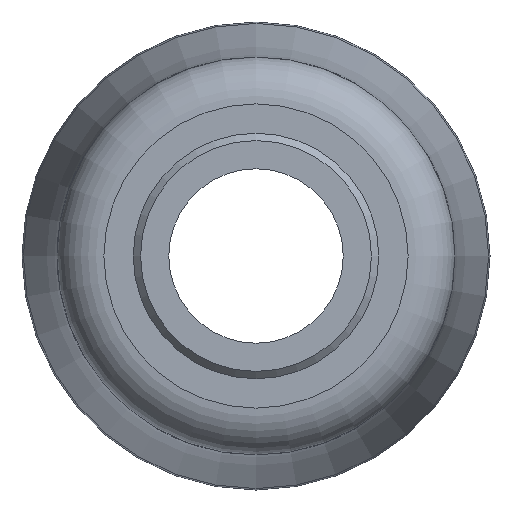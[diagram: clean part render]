
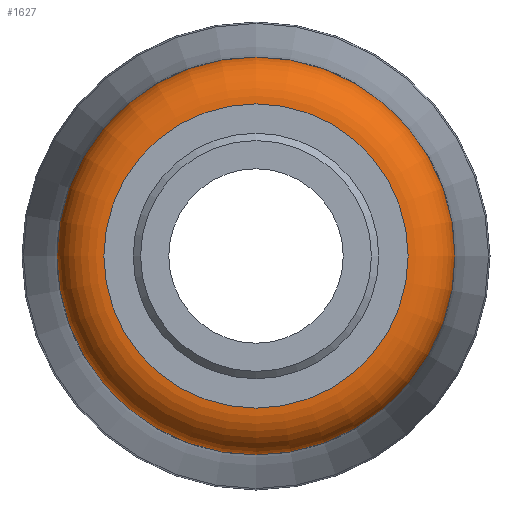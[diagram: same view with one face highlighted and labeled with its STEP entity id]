
A CAD part, left-side view. The second image highlights one B-rep face of the part: STEP entity #1627.
In plain terms, the highlighted toroidal (fillet/blend) face has major radius 15.275 mm and minor radius 4.7 mm.
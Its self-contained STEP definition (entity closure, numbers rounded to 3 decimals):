
#15=TOROIDAL_SURFACE('',#1778,15.275,4.7);
#343=FACE_BOUND('',#490,.T.);
#382=FACE_OUTER_BOUND('',#489,.T.);
#489=EDGE_LOOP('',(#1156));
#490=EDGE_LOOP('',(#1157));
#621=CIRCLE('',#1779,15.275);
#622=CIRCLE('',#1780,19.975);
#723=VERTEX_POINT('',#2795);
#724=VERTEX_POINT('',#2797);
#889=EDGE_CURVE('',#723,#723,#621,.T.);
#890=EDGE_CURVE('',#724,#724,#622,.T.);
#1156=ORIENTED_EDGE('',*,*,#889,.T.);
#1157=ORIENTED_EDGE('',*,*,#890,.T.);
#1627=ADVANCED_FACE('',(#382,#343),#15,.T.);
#1778=AXIS2_PLACEMENT_3D('',#2794,#2059,#2060);
#1779=AXIS2_PLACEMENT_3D('',#2796,#2061,#2062);
#1780=AXIS2_PLACEMENT_3D('',#2798,#2063,#2064);
#2059=DIRECTION('center_axis',(1.,0.,0.));
#2060=DIRECTION('ref_axis',(0.,0.,-1.));
#2061=DIRECTION('center_axis',(1.,0.,0.));
#2062=DIRECTION('ref_axis',(0.,-1.,0.));
#2063=DIRECTION('center_axis',(-1.,0.,0.));
#2064=DIRECTION('ref_axis',(0.,-1.,0.));
#2794=CARTESIAN_POINT('Origin',(19.7,0.,0.));
#2795=CARTESIAN_POINT('',(15.,15.275,0.));
#2796=CARTESIAN_POINT('Origin',(15.,0.,0.));
#2797=CARTESIAN_POINT('',(19.7,19.975,0.));
#2798=CARTESIAN_POINT('Origin',(19.7,0.,0.));
